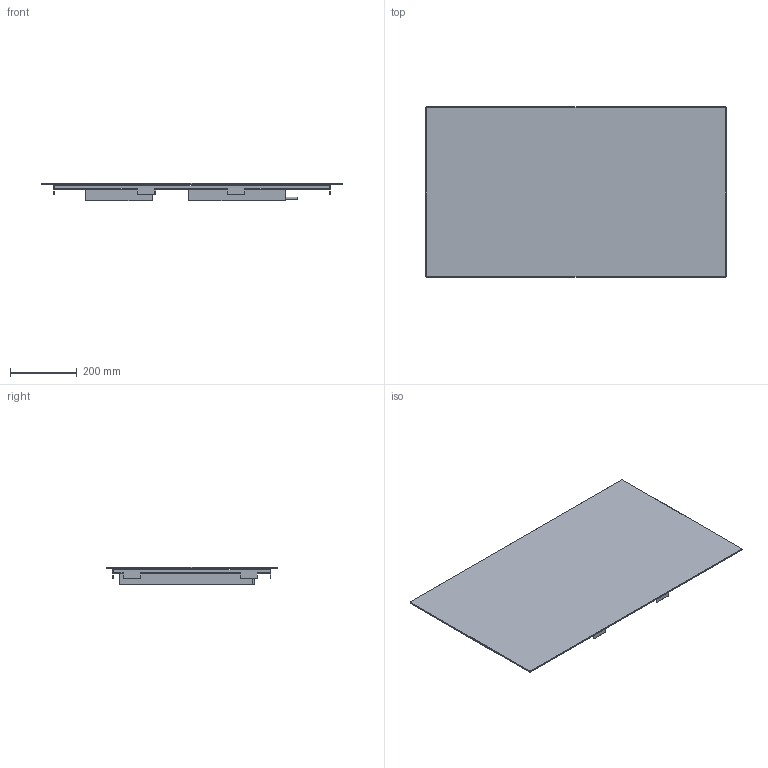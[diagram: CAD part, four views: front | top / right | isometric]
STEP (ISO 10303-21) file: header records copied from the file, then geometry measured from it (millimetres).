
FILE_DESCRIPTION(/* description */ (''),/* implementation_level */ '2;1');
FILE_NAME(/* name */ 'SI1M24954D.stp',/* time_stamp */ '2026-07-17T14:36:24+02:00',/* author */ (''),/* organization */ (''),/* preprocessor_version */ 'ST-DEVELOPER v20',/* originating_system */ 'SIEMENS PLM Software NX2412.4001',/* authorisation */ '');
FILE_SCHEMA (('AUTOMOTIVE_DESIGN { 1 0 10303 214 3 1 1 1 }'));
Length unit declared in the file: millimetre
Products named in the file (1): SI1M24954D_stp_objects
Bounding box: 900 x 510 x 52.63 mm (x, y, z)
Volume: 8857037.2 mm3; surface area: 2250441.5 mm2
Topology: 5 solids, 5 shells, 176 faces, 505 edges, 326 vertices
Faces by surface type: plane 112, cylinder 56, torus 8
Full cylindrical faces by diameter (mm): 8 x1, 50.385 x1, 50.491 x1, 50.5 x1
Entity records: 5779 total; most frequent: CARTESIAN_POINT 1004, ORIENTED_EDGE 1002, DIRECTION 975, EDGE_CURVE 501, LINE 381, VECTOR 381, VERTEX_POINT 326, AXIS2_PLACEMENT_3D 297
